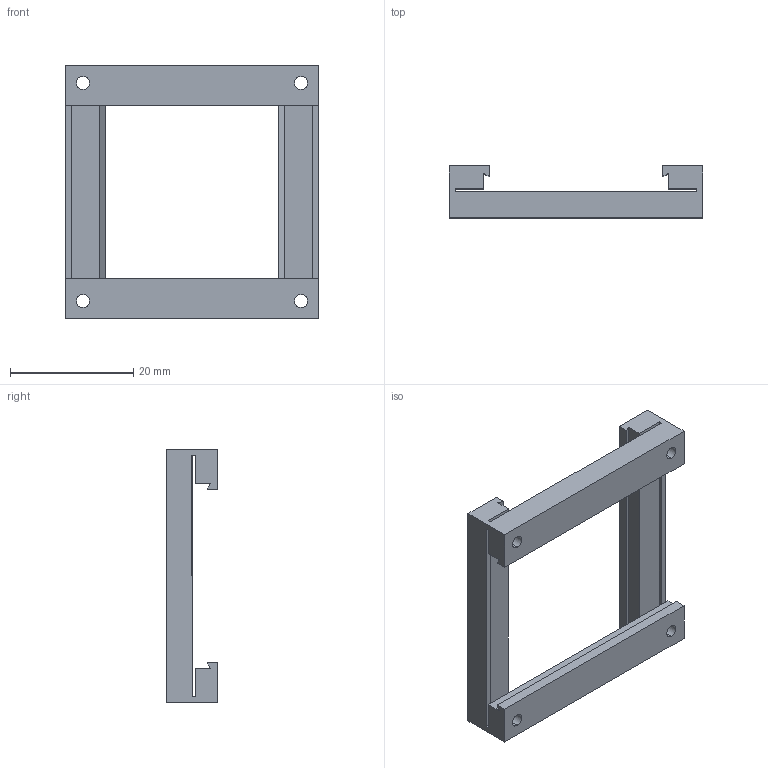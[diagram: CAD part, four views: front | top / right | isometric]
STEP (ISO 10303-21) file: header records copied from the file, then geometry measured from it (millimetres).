
FILE_DESCRIPTION (( 'STEP AP203' ), '1' );
FILE_NAME ('X-Y Verbindung dL30.STEP', '2003-03-07T08:08:01', ( 'Mattias Tetzlaff' ), ( 'SOLECTRO AB' ), 'SwSTEP 2.0', 'SolidWorks 2002349', '' );
FILE_SCHEMA (( 'CONFIG_CONTROL_DESIGN' ));
Length unit declared in the file: millimetre
Products named in the file (1): X-Y Verbindung dL30
Bounding box: 41.2 x 8.4 x 41.2 mm (x, y, z)
Volume: 3442.3 mm3; surface area: 4026.3 mm2
Topology: 1 solids, 1 shells, 60 faces, 164 edges, 108 vertices
Faces by surface type: plane 36, cylinder 24
Entity records: 2017 total; most frequent: DIRECTION 334, CARTESIAN_POINT 333, ORIENTED_EDGE 328, EDGE_CURVE 164, LINE 116, VECTOR 116, AXIS2_PLACEMENT_3D 109, VERTEX_POINT 108
